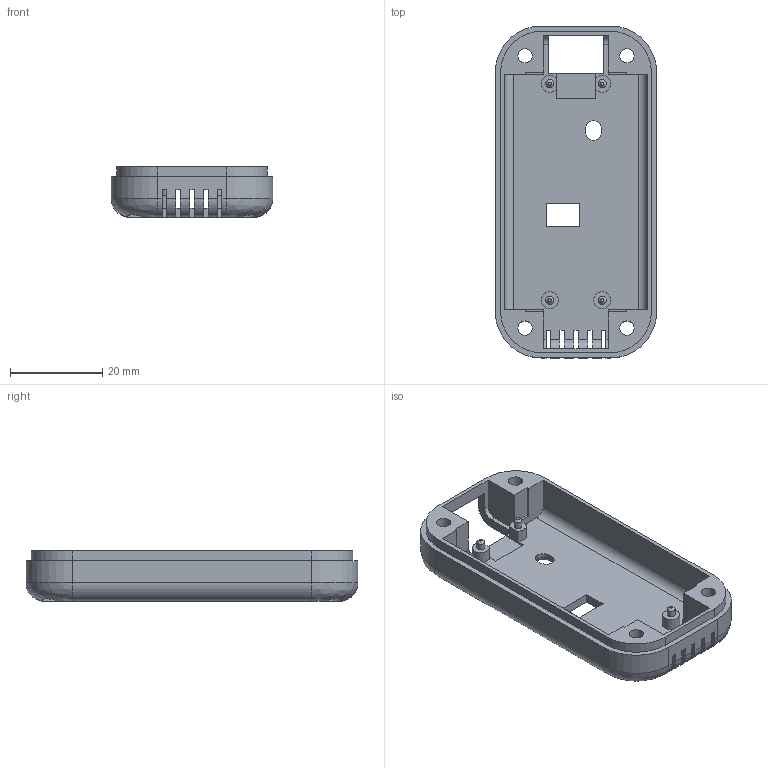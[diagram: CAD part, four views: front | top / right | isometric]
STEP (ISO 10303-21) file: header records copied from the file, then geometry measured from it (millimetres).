
FILE_DESCRIPTION(/* description */ (''),/* implementation_level */ '2;1');
FILE_NAME(/* name */ 'habit_tracker_cover-bottom',/* time_stamp */ '2026-03-16T12:43:27+01:00',/* author */ (''),/* organization */ (''),/* preprocessor_version */ 'ST-DEVELOPER v19.2',/* originating_system */ 'Rhino 8.0',/* authorisation */ '');
FILE_SCHEMA (('CONFIG_CONTROL_DESIGN'));
Length unit declared in the file: millimetre
Products named in the file (1): Document
Bounding box: 35 x 72 x 11 mm (x, y, z)
Volume: 8295.1 mm3; surface area: 8793.1 mm2
Topology: 1 solids, 1 shells, 144 faces, 420 edges, 274 vertices
Faces by surface type: plane 82, cylinder 50, bspline 12
Full cylindrical faces by diameter (mm): 1.7 x4, 3.1 x4, 3.7 x2, 6 x4
Entity records: 4897 total; most frequent: CARTESIAN_POINT 1552, ORIENTED_EDGE 840, EDGE_CURVE 420, DIRECTION 380, VERTEX_POINT 274, B_SPLINE_CURVE_WITH_KNOTS 269, AXIS2_PLACEMENT_3D 256, EDGE_LOOP 164
